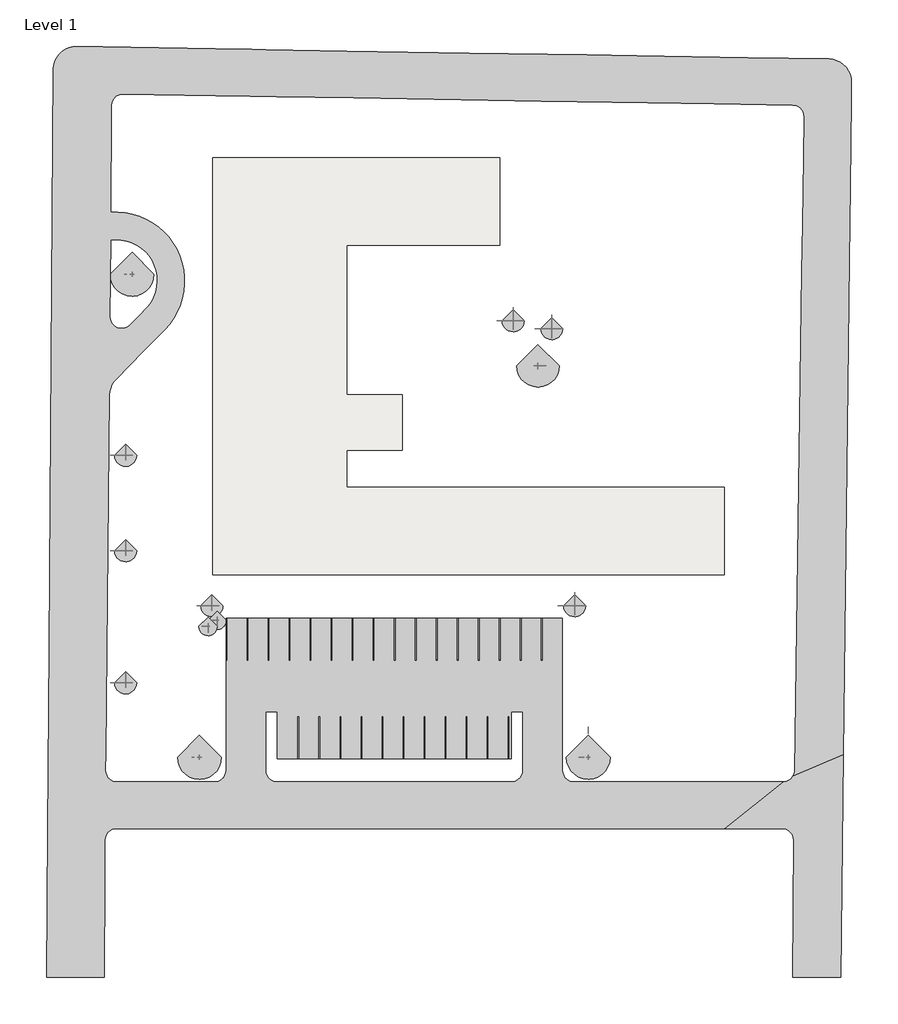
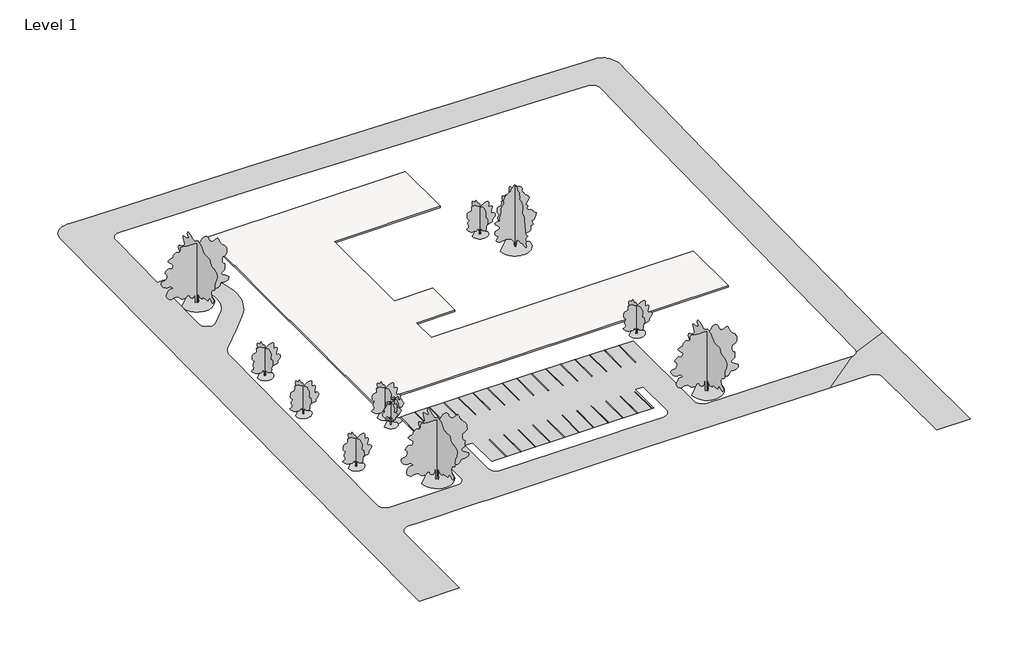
# One storey, incomplete: 28 proxies, 13 geographic elements, 1 slab.
"""IFC4 building model written with IfcOpenShell, lengths in millimetres."""

from ifc_helpers import new_model, si_unit, frame, origin, place, context, project, spatial, polyline, outline, extrude, triangles, transform, mapped, element, save
from components import m_parking_space_5480_x_2740mm_90_deg_a793e569, m_rpc_tree_deciduous_american_beech_6_0_meters_be49fed4, m_rpc_tree_deciduous_japanese_cherry_4_5_meters_7aaeb41d, m_rpc_tree_deciduous_lombardy_poplar_12_2_meters_1b309f58, m_rpc_tree_deciduous_scarlet_oak_12_5_meters_13b38d7d

model = new_model("IFC4")

# Units and contexts
model_context = context("Model", 3, world=origin())
ifc_project = project(units=[si_unit("LENGTHUNIT", "METRE", prefix="MILLI")], contexts=[model_context])

# Site, building, storey
site = spatial("IfcSite", under=ifc_project)
building = spatial("IfcBuilding", under=site)
storey = spatial("IfcBuildingStorey", under=building, Name="Level 1", Elevation=0.0)

# Proxies
placement = place(None, origin())
element("IfcBuildingElementProxy", 1, Name="Building Element Proxy", at=placement, inside=storey, context=model_context, shape_type="Tessellation", body=[
    triangles([(70309.7548828, 43704.7137085, -503.1527547), (59746.7205688, 43879.5355957, -409.5406998), (45204.5570435, 44120.2092773, -278.9620967), (38757.531958, 44226.9097412, -221.9724431), (23364.4389771, 44481.6709351, -156.1477909), (7458.42556, 44744.915332, 0.0), (-3099.0088051, 44919.6442017, 0.0), (-4909.0805878, 44949.6005127, 0.0), (-9691.7927261, 45028.7538208, 0.0), (-24317.5691711, 45270.8134644, 0.0), (-27271.6376953, 45319.7081543, 0.0), (-27739.5370422, 45327.4518677, 0.0), (-28264.1631592, 45290.0215942, 0.0), (-28774.1901672, 45161.5457153, 0.0), (-29253.9399536, 44945.9681763, 0.0), (-29688.6669067, 44649.9211304, 0.0), (-30065.011377, 44282.4970459, 0.0), (-30371.4019775, 43854.9975586, 0.0), (-30598.4230042, 43380.5567505, 0.0), (-30739.095813, 42873.755127, 0.0), (-30774.2820374, 42505.3404053, 0.0), (-30789.0997375, 42350.1824341, 0.0), (-31349.0702087, -32913.8142334, 0.0), (-31410.3827454, -41154.7298218, 0.0), (-31466.9560364, -48758.3494263, 0.0), (-31526.3942688, -56747.4710815, 0.0), (-31669.8878357, -76033.9217651, 0.0), (-24160.2671448, -76033.9217651, 0.0), (-24090.7853394, -62944.5904907, 0.0), (-24065.2287598, -58130.4099243, 0.0), (-24026.1078918, -57797.9371948, 0.0), (-23964.4744446, -57624.1291992, 0.0), (-23914.2263489, -57482.4262207, 0.0), (-23735.1558838, -57199.58302, 0.0), (-23497.8145569, -56963.4997559, 0.0), (-23214.0249023, -56785.9338501, 0.0), (-22897.9232666, -56675.7266235, 0.0), (-22565.2505493, -56638.3707642, 0.0), (-21189.1601257, -56638.3707642, 0.0), (-18714.6158203, -56638.3707642, 0.0), (-10932.9501068, -56638.3707642, 0.0), (-8594.8358459, -56638.3707642, 0.0), (-7828.2291504, -56638.3707642, 0.0), (21010.0826843, -56638.3707642, 0.0), (22698.8121643, -56638.3707642, 0.0), (56711.1151611, -56638.3707642, -334.7282604), (64236.9255615, -56638.3707642, -334.7282604), (64572.5050781, -56676.3916992, -334.0721231), (64891.0763306, -56788.5243896, -332.1369578), (65176.4821655, -56969.0808105, -329.020869), (65414.2630005, -57208.917334, -324.8818048), (65592.3591064, -57495.8672607, -319.9295998), (65701.7431274, -57815.3872925, -314.4152925), (65736.8712158, -58151.2830688, -308.6184443), (65582.9224731, -76033.9217651, 0.0), (71858.6882446, -76033.9217651, 0.0), (72207.6111328, -46972.9328247, -501.5343578), (72914.4470581, 11897.6051788, -595.5837407), (72981.5592407, 17486.9884277, -555.8220689), (73096.2220093, 27037.1194519, -545.4053719), (73231.3532959, 38291.881311, -535.7858282), (73259.8957397, 40669.1083008, -533.0508934), (73220.8237061, 41189.0672607, -532.0520082), (73092.3059692, 41694.4085083, -530.2807137), (72878.2306641, 42169.863208, -527.790495), (72585.0625122, 42601.0694458, -524.6566383), (72221.661438, 42975.0001099, -520.9737236), (71799.0035156, 43280.3582153, -516.8530812), (71329.8554077, 43507.9210693, -512.4191949), (70828.3883423, 43650.810022, -507.805959), (65844.943689, -49064.5493408, -435.8225258), (65789.1005859, -49448.423584, -434.7050795), (65636.6912842, -49805.1366943, -432.6774053), (65397.8965576, -50110.8436157, -429.875069), (65088.6968262, -50345.0897827, -426.4855594), (64729.7652466, -50492.2110352, -422.7355339), (64345.1050049, -50542.3707642, -418.8757768), (37077.7972778, -50542.3707642, -150.5276125), (36744.0176514, -50504.7637573, -147.2983764), (36426.9718872, -50393.8263428, -144.3423523), (36142.5636658, -50215.1163208, -141.8077414), (35905.0502563, -49977.6052368, -139.8216707), (35726.3448853, -49693.1946899, -138.4837074), (35615.4051453, -49376.1535767, -137.8609529), (35577.7981384, -49042.3692993, -137.9846372), (35577.7981384, -29206.3707642, -167.3300298), (18575.1115448, -29206.3707642, 0.0), (14497.9359924, -29206.3707642, 0.0), (-7039.9656372, -29206.3707642, 0.0), (-8262.2014984, -29206.3707642, 0.0), (-8262.2014984, -49042.3692993, 0.0), (-8299.809668, -49376.1535767, 0.0), (-8410.7482452, -49693.1946899, 0.0), (-8589.4541977, -49977.6052368, 0.0), (-8665.8786026, -50054.028479, 0.0), (-8826.9670258, -50215.1163208, 0.0), (-9111.3758286, -50393.8263428, 0.0), (-9428.4198486, -50504.7637573, 0.0), (-9762.2018005, -50542.3707642, 0.0), (-11733.5907715, -50542.3707642, 0.0), (-21961.0269653, -50542.3707642, 0.0), (-22489.1714722, -50542.3707642, 0.0), (-22825.1137573, -50504.2661133, 0.0), (-23143.9896423, -50391.896228, 0.0), (-23429.5977905, -50210.9584351, 0.0), (-23667.4274597, -49970.6568237, 0.0), (-23845.3979919, -49683.1953003, 0.0), (-23954.4657532, -49363.1729736, 0.0), (-23989.0915466, -49026.8539673, 0.0), (-23965.8278503, -46777.8191528, 0.0), (-23482.8736084, -89.4265001, 0.0), (-23435.7322998, 363.1888415, 0.0), (-23321.7694885, 803.7518847, 0.0), (-23143.5268799, 1222.4547432, 0.0), (-22904.9670227, 1609.9761475, 0.0), (-22611.4058716, 1957.6892258, 0.0), (-19099.0970032, 5537.8817413, 0.0), (-16262.7991974, 8428.9988754, 0.0), (-15636.7711304, 9137.9788559, 0.0), (-15088.4732025, 9908.6498383, 0.0), (-14623.9422546, 10732.5286194, 0.0), (-14248.2919281, 11600.5442413, 0.0), (-13965.658017, 12503.1414734, 0.0), (-13779.1507965, 13430.3848755, 0.0), (-13690.8247925, 14372.0646057, 0.0), (-13701.6508759, 15317.8173431, 0.0), (-13811.5116119, 16257.2297699, 0.0), (-14019.1954468, 17179.959494, 0.0), (-14322.4187988, 18075.8513214, 0.0), (-14717.8411743, 18935.0395752, 0.0), (-15201.1093506, 19748.0690186, 0.0), (-15766.9062103, 20505.9855469, 0.0), (-16409.0007385, 21200.4478088, 0.0), (-17120.3235992, 21823.812085, 0.0), (-17893.0473633, 22369.2160034, 0.0), (-18718.662085, 22830.6506287, 0.0), (-19588.0811096, 23203.0418518, 0.0), (-20491.7329285, 23482.2875977, 0.0), (-21419.6693115, 23665.3136353, 0.0), (-21480.6516357, 23670.8039978, 0.0), (-22361.6746033, 23750.1084595, 0.0), (-23307.3796692, 23735.7325928, 0.0), (-23209.9042236, 36837.1561523, 0.0), (-23203.9185425, 37641.6768127, 0.0), (-23163.3768311, 37977.0679688, 0.0), (-23048.8094055, 38294.8811279, 0.0), (-22866.0228882, 38578.9940186, 0.0), (-22624.2911316, 38814.9958923, 0.0), (-22335.8738525, 38990.915387, 0.0), (-22015.4050415, 39097.8274658, 0.0), (-21679.1371948, 39130.3092041, 0.0), (-9625.997905, 38930.8306824, 0.0), (-5084.1908295, 38855.6655029, 0.0), (-1645.9585442, 38798.7619995, 0.0), (8377.2142456, 38632.8791016, 0.0), (32875.1398499, 38227.4364075, -240.4937689), (46729.6360474, 37998.1434265, -299.7389899), (55435.3325684, 37854.0638489, -376.6945579), (65630.1847046, 37685.3392639, -468.2372987), (65962.9318359, 37642.302356, -471.261242), (66277.7870361, 37526.3815247, -474.1950019), (66559.0024292, 37343.376416, -476.8917123), (66792.4998047, 37102.4422852, -479.216534), (66966.6054565, 36815.6318848, -481.0531225), (67072.6082886, 36497.2978271, -482.3095865), (67105.1969971, 36163.3670471, -482.9230665), (67025.2297852, 30755.4808594, -487.4104743), (66899.3025879, 22239.1774292, -496.4906977), (66805.7827148, 15914.661145, -541.4088498), (-1581.9995121, -47494.3707642, 0.0), (18839.3663452, -47494.3707642, 0.0), (21324.2449036, -47494.3707642, 0.0), (28897.5965881, -47494.3707642, -74.5322966), (28897.5965881, -41398.3707642, -83.5507232), (30421.5965881, -41398.3707642, -98.5489992), (30421.5965881, -49042.3692993, -87.2404598), (30383.9895813, -49376.1535767, -86.3765409), (30273.0498413, -49693.1946899, -84.8157168), (30094.3444702, -49977.6052368, -82.6362441), (29856.8310608, -50215.1163208, -79.9474184), (29572.4228394, -50393.8263428, -76.8840607), (29255.3770752, -50504.7637573, -73.5997817), (28921.5974487, -50542.3707642, -70.2592743), (21782.4332153, -50542.3707642, 0.0), (19562.9384583, -50542.3707642, 0.0), (-1605.9993553, -50542.3707642, 0.0), (-1939.7807259, -50504.7637573, 0.0), (-2256.8250366, -50393.8263428, 0.0), (-2541.2341301, -50215.1163208, 0.0), (-2778.7466675, -49977.6052368, 0.0), (-2957.4526199, -49693.1946899, 0.0), (-3068.3911972, -49376.1535767, 0.0), (-3105.9993668, -49042.3692993, 0.0), (-3105.9993668, -41398.3707642, 0.0), (-1581.9995121, -41398.3707642, 0.0), (-23329.5411072, 20062.4428528, 0.0), (-22621.2355042, 20122.8182373, 0.0), (-21911.2137268, 20088.0784973, 0.0), (-21212.1866272, 19958.8398743, 0.0), (-20983.2726929, 19883.8049194, 0.0), (-20536.6766968, 19737.4208313, 0.0), (-19896.7808716, 19427.7839172, 0.0), (-19303.9589172, 19035.4776306, 0.0), (-18768.829953, 18567.527124, 0.0), (-18300.9771149, 18032.3132813, 0.0), (-17908.7801239, 17439.420401, 0.0), (-17599.2606445, 16799.4687653, 0.0), (-17377.9648499, 16123.9181396, 0.0), (-17248.854126, 15424.8677856, 0.0), (-17214.2422852, 14714.8378693, 0.0), (-17274.7478943, 14006.5438934, 0.0), (-17429.2872986, 13312.6722931, 0.0), (-17675.0943878, 12645.649054, 0.0), (-18007.7659424, 12017.4211212, 0.0), (-18421.3430237, 11439.2389709, 0.0), (-19702.636908, 10133.1791565, 0.0), (-20791.7983337, 9022.9684341, 0.0), (-21073.2044128, 8797.119429, 0.0), (-21399.8193604, 8643.7590225, 0.0), (-21753.3349915, 8571.483783, 0.0), (-22113.9339111, 8584.3452072, 0.0), (-22461.4010742, 8681.6229904, 0.0), (-22776.2609253, 8857.8639771, 0.0), (-23040.8610535, 9103.1879562, 0.0), (-23240.3698059, 9403.8428604, 0.0), (-23363.6018188, 9742.9750671, 0.0), (-23403.6505371, 10101.5741089, 0.0)], [[27, 28, 29], [27, 29, 26], [26, 30, 31], [30, 26, 29], [31, 32, 26], [26, 32, 33], [34, 35, 106], [34, 106, 26], [106, 35, 105], [36, 104, 105], [104, 36, 37], [35, 36, 105], [34, 26, 33], [26, 106, 25], [108, 109, 25], [107, 108, 25], [24, 25, 110], [23, 110, 111], [110, 23, 24], [25, 109, 110], [107, 25, 106], [112, 113, 226], [111, 112, 227], [227, 112, 226], [225, 114, 115], [225, 226, 113], [114, 225, 113], [23, 111, 22], [22, 111, 227], [103, 37, 38], [102, 38, 101], [103, 38, 102], [115, 116, 224], [116, 117, 221], [222, 116, 221], [225, 115, 224], [101, 39, 40], [39, 101, 38], [219, 220, 117], [219, 117, 218], [221, 117, 220], [217, 117, 118], [222, 223, 116], [216, 118, 215], [118, 216, 217], [117, 217, 218], [223, 224, 116], [215, 120, 214], [214, 120, 121], [214, 121, 213], [213, 122, 212], [121, 122, 213], [212, 122, 123], [120, 215, 119], [118, 119, 215], [103, 104, 37], [142, 143, 22], [196, 142, 22], [144, 145, 22], [146, 147, 22], [145, 146, 22], [142, 196, 197], [143, 144, 22], [141, 197, 198], [140, 198, 139], [141, 198, 140], [149, 150, 10], [148, 149, 10], [141, 142, 197], [147, 148, 10], [21, 19, 20], [15, 16, 21], [19, 21, 18], [17, 18, 21], [16, 17, 21], [21, 22, 12], [15, 21, 14], [22, 147, 11], [22, 11, 12], [21, 13, 14], [21, 12, 13], [10, 11, 147], [151, 9, 10], [151, 10, 150], [196, 22, 227], [212, 123, 211], [132, 204, 205], [130, 206, 207], [131, 205, 206], [208, 128, 207], [126, 210, 125], [211, 125, 210], [124, 125, 211], [210, 126, 209], [208, 209, 127], [207, 128, 129], [128, 208, 127], [209, 126, 127], [123, 124, 211], [207, 129, 130], [137, 201, 136], [200, 201, 137], [198, 138, 139], [138, 198, 199], [137, 138, 199], [199, 200, 137], [201, 202, 136], [204, 133, 203], [204, 132, 133], [132, 205, 131], [206, 130, 131], [202, 135, 136], [135, 203, 134], [203, 133, 134], [135, 202, 203], [40, 100, 101], [99, 41, 42], [97, 98, 42], [99, 100, 41], [188, 43, 187], [98, 99, 42], [97, 42, 43], [43, 186, 187], [41, 100, 40], [185, 186, 44], [44, 186, 43], [184, 44, 45], [185, 44, 184], [182, 183, 45], [45, 183, 184], [182, 80, 181], [97, 43, 96], [96, 43, 95], [93, 94, 190], [91, 92, 192], [93, 191, 92], [95, 190, 94], [43, 189, 190], [43, 188, 189], [192, 193, 91], [190, 191, 93], [192, 92, 191], [190, 95, 43], [91, 193, 194], [182, 45, 79], [91, 194, 90], [77, 48, 76], [47, 48, 77], [78, 45, 46], [46, 77, 78], [77, 46, 47], [79, 45, 78], [76, 48, 49], [55, 56, 54], [53, 57, 52], [75, 49, 50], [57, 73, 51], [74, 50, 51], [52, 57, 51], [182, 79, 80], [53, 54, 57], [180, 82, 179], [82, 180, 81], [179, 82, 83], [177, 178, 84], [83, 84, 178], [178, 179, 83], [85, 177, 84], [81, 180, 181], [75, 76, 49], [73, 74, 51], [57, 71, 72], [72, 73, 57], [75, 50, 74], [80, 81, 181], [54, 56, 57], [195, 170, 171], [90, 194, 89], [195, 88, 89], [88, 195, 171], [194, 195, 89], [88, 171, 87], [85, 176, 177], [175, 176, 85], [174, 87, 172], [172, 173, 174], [175, 86, 174], [86, 175, 85], [172, 87, 171], [87, 174, 86], [153, 154, 7], [9, 152, 8], [9, 151, 152], [8, 152, 153], [153, 7, 8], [154, 6, 7], [155, 156, 5], [5, 6, 155], [157, 3, 4], [5, 156, 4], [4, 156, 157], [155, 6, 154], [168, 169, 59], [160, 161, 1], [162, 163, 62], [161, 162, 1], [163, 164, 61], [60, 168, 59], [59, 169, 58], [165, 166, 61], [167, 61, 166], [168, 60, 167], [164, 165, 61], [61, 167, 60], [3, 158, 2], [2, 158, 159], [2, 159, 1], [64, 69, 70], [70, 1, 63], [159, 160, 1], [158, 3, 157], [64, 70, 63], [62, 63, 1], [64, 65, 69], [67, 68, 66], [65, 66, 68], [69, 65, 68], [162, 62, 1], [163, 61, 62], [58, 169, 71], [57, 58, 71]], closed=False),
])
m_parking_space_5480_x_2740mm_90_deg_shape = m_parking_space_5480_x_2740mm_90_deg_a793e569(model_context)
element("IfcBuildingElementProxy", 2, Name="M_Parking Space : 5480 x 2740mm - 90 deg", ObjectType="M_Parking Space : 5480 x 2740mm - 90 deg", at=placement, inside=storey, context=model_context, shape_type="MappedRepresentation", body=[
    mapped(m_parking_space_5480_x_2740mm_90_deg_shape, transform((-8211.3704002, -29206.3707642, 0.7803686), x_axis=(1.0, 0.0, 0.0), y_axis=(0.0, 1.0, 0.0), z_axis=(0.0, 0.0, 1.0))),
])
element("IfcBuildingElementProxy", 3, Name="M_Parking Space : 5480 x 2740mm - 90 deg", ObjectType="M_Parking Space : 5480 x 2740mm - 90 deg", at=placement, inside=storey, context=model_context, shape_type="MappedRepresentation", body=[
    mapped(m_parking_space_5480_x_2740mm_90_deg_shape, transform((-5471.4012928, -29206.3707642, 0.7803686), x_axis=(1.0, 0.0, 0.0), y_axis=(0.0, 1.0, 0.0), z_axis=(0.0, 0.0, 1.0))),
])
element("IfcBuildingElementProxy", 4, Name="M_Parking Space : 5480 x 2740mm - 90 deg", ObjectType="M_Parking Space : 5480 x 2740mm - 90 deg", at=placement, inside=storey, context=model_context, shape_type="MappedRepresentation", body=[
    mapped(m_parking_space_5480_x_2740mm_90_deg_shape, transform((-2731.4321855, -29206.3707642, 0.7803686), x_axis=(1.0, 0.0, 0.0), y_axis=(0.0, 1.0, 0.0), z_axis=(0.0, 0.0, 1.0))),
])
element("IfcBuildingElementProxy", 5, Name="M_Parking Space : 5480 x 2740mm - 90 deg", ObjectType="M_Parking Space : 5480 x 2740mm - 90 deg", at=placement, inside=storey, context=model_context, shape_type="MappedRepresentation", body=[
    mapped(m_parking_space_5480_x_2740mm_90_deg_shape, transform((8.5369219, -29206.3707642, 0.7803686), x_axis=(1.0, 0.0, 0.0), y_axis=(0.0, 1.0, 0.0), z_axis=(0.0, 0.0, 1.0))),
])
element("IfcBuildingElementProxy", 6, Name="M_Parking Space : 5480 x 2740mm - 90 deg", ObjectType="M_Parking Space : 5480 x 2740mm - 90 deg", at=placement, inside=storey, context=model_context, shape_type="MappedRepresentation", body=[
    mapped(m_parking_space_5480_x_2740mm_90_deg_shape, transform((2748.5060292, -29206.3707642, 0.7803686), x_axis=(1.0, 0.0, 0.0), y_axis=(0.0, 1.0, 0.0), z_axis=(0.0, 0.0, 1.0))),
])
element("IfcBuildingElementProxy", 7, Name="M_Parking Space : 5480 x 2740mm - 90 deg", ObjectType="M_Parking Space : 5480 x 2740mm - 90 deg", at=placement, inside=storey, context=model_context, shape_type="MappedRepresentation", body=[
    mapped(m_parking_space_5480_x_2740mm_90_deg_shape, transform((5488.4751366, -29206.3707642, 0.7803686), x_axis=(1.0, 0.0, 0.0), y_axis=(0.0, 1.0, 0.0), z_axis=(0.0, 0.0, 1.0))),
])
element("IfcBuildingElementProxy", 8, Name="M_Parking Space : 5480 x 2740mm - 90 deg", ObjectType="M_Parking Space : 5480 x 2740mm - 90 deg", at=placement, inside=storey, context=model_context, shape_type="MappedRepresentation", body=[
    mapped(m_parking_space_5480_x_2740mm_90_deg_shape, transform((8228.4442439, -29206.3707642, 0.7803686), x_axis=(1.0, 0.0, 0.0), y_axis=(0.0, 1.0, 0.0), z_axis=(0.0, 0.0, 1.0))),
])
element("IfcBuildingElementProxy", 9, Name="M_Parking Space : 5480 x 2740mm - 90 deg", ObjectType="M_Parking Space : 5480 x 2740mm - 90 deg", at=placement, inside=storey, context=model_context, shape_type="MappedRepresentation", body=[
    mapped(m_parking_space_5480_x_2740mm_90_deg_shape, transform((10968.4133512, -29206.3707642, 0.7803686), x_axis=(1.0, 0.0, 0.0), y_axis=(0.0, 1.0, 0.0), z_axis=(0.0, 0.0, 1.0))),
])
element("IfcBuildingElementProxy", 10, Name="M_Parking Space : 5480 x 2740mm - 90 deg", ObjectType="M_Parking Space : 5480 x 2740mm - 90 deg", at=placement, inside=storey, context=model_context, shape_type="MappedRepresentation", body=[
    mapped(m_parking_space_5480_x_2740mm_90_deg_shape, transform((13708.3824586, -29206.3707642, 0.7803686), x_axis=(1.0, 0.0, 0.0), y_axis=(0.0, 1.0, 0.0), z_axis=(0.0, 0.0, 1.0))),
])
element("IfcBuildingElementProxy", 11, Name="M_Parking Space : 5480 x 2740mm - 90 deg", ObjectType="M_Parking Space : 5480 x 2740mm - 90 deg", at=placement, inside=storey, context=model_context, shape_type="MappedRepresentation", body=[
    mapped(m_parking_space_5480_x_2740mm_90_deg_shape, transform((16448.3515659, -29206.3707642, 0.7254434), x_axis=(1.0, 0.0, 0.0), y_axis=(0.0, 1.0, 0.0), z_axis=(0.0, 0.0, 1.0))),
])
element("IfcBuildingElementProxy", 12, Name="M_Parking Space : 5480 x 2740mm - 90 deg", ObjectType="M_Parking Space : 5480 x 2740mm - 90 deg", at=placement, inside=storey, context=model_context, shape_type="MappedRepresentation", body=[
    mapped(m_parking_space_5480_x_2740mm_90_deg_shape, transform((19188.3206733, -29206.3707642, -5.2310848), x_axis=(0.9999560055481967, 0.0, -0.009380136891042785), y_axis=(-1.1675017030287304e-05, 0.9999992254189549, -0.0012445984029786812), z_axis=(0.009380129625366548, 0.0012446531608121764, 0.9999552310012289))),
])
element("IfcBuildingElementProxy", 13, Name="M_Parking Space : 5480 x 2740mm - 90 deg", ObjectType="M_Parking Space : 5480 x 2740mm - 90 deg", at=placement, inside=storey, context=model_context, shape_type="MappedRepresentation", body=[
    mapped(m_parking_space_5480_x_2740mm_90_deg_shape, transform((21928.2897806, -29206.3707642, -32.2196013), x_axis=(0.9999515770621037, 0.0, -0.0098409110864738), y_axis=(-1.4557933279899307e-05, 0.9999989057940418, -0.0014792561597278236), z_axis=(0.009840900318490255, 0.0014793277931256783, 0.99995048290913))),
])
element("IfcBuildingElementProxy", 14, Name="M_Parking Space : 5480 x 2740mm - 90 deg", ObjectType="M_Parking Space : 5480 x 2740mm - 90 deg", at=placement, inside=storey, context=model_context, shape_type="MappedRepresentation", body=[
    mapped(m_parking_space_5480_x_2740mm_90_deg_shape, transform((24668.258888, -29206.3707642, -59.1846994), x_axis=(0.9999515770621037, 0.0, -0.009840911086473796), y_axis=(-1.4557933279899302e-05, 0.9999989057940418, -0.0014792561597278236), z_axis=(0.009840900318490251, 0.0014793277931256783, 0.99995048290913))),
])
element("IfcBuildingElementProxy", 15, Name="M_Parking Space : 5480 x 2740mm - 90 deg", ObjectType="M_Parking Space : 5480 x 2740mm - 90 deg", at=placement, inside=storey, context=model_context, shape_type="MappedRepresentation", body=[
    mapped(m_parking_space_5480_x_2740mm_90_deg_shape, transform((27408.2279953, -29206.3707642, -86.1497975), x_axis=(0.9999515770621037, 0.0, -0.0098409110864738), y_axis=(-1.4557933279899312e-05, 0.9999989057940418, -0.001479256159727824), z_axis=(0.009840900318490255, 0.0014793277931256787, 0.99995048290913))),
])
element("IfcBuildingElementProxy", 16, Name="M_Parking Space : 5480 x 2740mm - 90 deg", ObjectType="M_Parking Space : 5480 x 2740mm - 90 deg", at=placement, inside=storey, context=model_context, shape_type="MappedRepresentation", body=[
    mapped(m_parking_space_5480_x_2740mm_90_deg_shape, transform((30148.1971027, -29206.3707642, -113.1148956), x_axis=(0.9999515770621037, 0.0, -0.009840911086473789), y_axis=(-1.4557933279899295e-05, 0.9999989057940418, -0.001479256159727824), z_axis=(0.009840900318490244, 0.0014793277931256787, 0.99995048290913))),
])
element("IfcBuildingElementProxy", 17, Name="M_Parking Space : 5480 x 2740mm - 90 deg", ObjectType="M_Parking Space : 5480 x 2740mm - 90 deg", at=placement, inside=storey, context=model_context, shape_type="MappedRepresentation", body=[
    mapped(m_parking_space_5480_x_2740mm_90_deg_shape, transform((32888.16621, -29206.3707642, -140.0799937), x_axis=(0.9999515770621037, 0.0, -0.009840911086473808), y_axis=(-1.4557933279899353e-05, 0.9999989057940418, -0.0014792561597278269), z_axis=(0.009840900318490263, 0.0014793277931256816, 0.99995048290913))),
])
element("IfcBuildingElementProxy", 18, Name="M_Parking Space : 5480 x 2740mm - 90 deg", ObjectType="M_Parking Space : 5480 x 2740mm - 90 deg", at=placement, inside=storey, context=model_context, shape_type="MappedRepresentation", body=[
    mapped(m_parking_space_5480_x_2740mm_90_deg_shape, transform((28558.0005584, -47494.3704098, -70.4098691), x_axis=(-0.9999515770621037, 0.0, 0.009840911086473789), y_axis=(1.4557933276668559e-05, -0.9999989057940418, 0.0014792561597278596), z_axis=(0.00984090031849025, 0.0014793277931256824, 0.99995048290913))),
])
element("IfcBuildingElementProxy", 19, Name="M_Parking Space : 5480 x 2740mm - 90 deg", ObjectType="M_Parking Space : 5480 x 2740mm - 90 deg", at=placement, inside=storey, context=model_context, shape_type="MappedRepresentation", body=[
    mapped(m_parking_space_5480_x_2740mm_90_deg_shape, transform((25818.031746, -47494.3704098, -43.444774), x_axis=(-0.9999515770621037, 0.0, 0.009840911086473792), y_axis=(1.455793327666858e-05, -0.9999989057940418, 0.0014792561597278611), z_axis=(0.009840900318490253, 0.001479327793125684, 0.99995048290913))),
])
element("IfcBuildingElementProxy", 20, Name="M_Parking Space : 5480 x 2740mm - 90 deg", ObjectType="M_Parking Space : 5480 x 2740mm - 90 deg", at=placement, inside=storey, context=model_context, shape_type="MappedRepresentation", body=[
    mapped(m_parking_space_5480_x_2740mm_90_deg_shape, transform((23078.0629336, -47494.3704098, -16.4796788), x_axis=(-0.9999515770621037, 0.0, 0.009840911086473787), y_axis=(1.4557933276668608e-05, -0.9999989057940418, 0.0014792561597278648), z_axis=(0.009840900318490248, 0.0014793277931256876, 0.99995048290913))),
])
element("IfcBuildingElementProxy", 21, Name="M_Parking Space : 5480 x 2740mm - 90 deg", ObjectType="M_Parking Space : 5480 x 2740mm - 90 deg", at=placement, inside=storey, context=model_context, shape_type="MappedRepresentation", body=[
    mapped(m_parking_space_5480_x_2740mm_90_deg_shape, transform((20338.0941212, -47494.3704098, 0.5399922), x_axis=(-0.9999888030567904, 0.0, 0.004732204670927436), y_axis=(3.5003760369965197e-06, -0.9999997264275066, 0.0007396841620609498), z_axis=(0.004732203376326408, 0.0007396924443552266, 0.9999885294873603))),
])
element("IfcBuildingElementProxy", 22, Name="M_Parking Space : 5480 x 2740mm - 90 deg", ObjectType="M_Parking Space : 5480 x 2740mm - 90 deg", at=placement, inside=storey, context=model_context, shape_type="MappedRepresentation", body=[
    mapped(m_parking_space_5480_x_2740mm_90_deg_shape, transform((17598.1253087, -47494.3704098, 0.7803686), x_axis=(-1.0, 0.0, 0.0), y_axis=(0.0, -1.0, 0.0), z_axis=(0.0, 0.0, 1.0))),
])
element("IfcBuildingElementProxy", 23, Name="M_Parking Space : 5480 x 2740mm - 90 deg", ObjectType="M_Parking Space : 5480 x 2740mm - 90 deg", at=placement, inside=storey, context=model_context, shape_type="MappedRepresentation", body=[
    mapped(m_parking_space_5480_x_2740mm_90_deg_shape, transform((14858.1564963, -47494.3704098, 0.7803686), x_axis=(-1.0, 0.0, 0.0), y_axis=(0.0, -1.0, 0.0), z_axis=(0.0, 0.0, 1.0))),
])
element("IfcBuildingElementProxy", 24, Name="M_Parking Space : 5480 x 2740mm - 90 deg", ObjectType="M_Parking Space : 5480 x 2740mm - 90 deg", at=placement, inside=storey, context=model_context, shape_type="MappedRepresentation", body=[
    mapped(m_parking_space_5480_x_2740mm_90_deg_shape, transform((12118.1876839, -47494.3704098, 0.7803686), x_axis=(-1.0, 0.0, 0.0), y_axis=(0.0, -1.0, 0.0), z_axis=(0.0, 0.0, 1.0))),
])
element("IfcBuildingElementProxy", 25, Name="M_Parking Space : 5480 x 2740mm - 90 deg", ObjectType="M_Parking Space : 5480 x 2740mm - 90 deg", at=placement, inside=storey, context=model_context, shape_type="MappedRepresentation", body=[
    mapped(m_parking_space_5480_x_2740mm_90_deg_shape, transform((9378.2188715, -47494.3704098, 0.7803686), x_axis=(-1.0, 0.0, 0.0), y_axis=(0.0, -1.0, 0.0), z_axis=(0.0, 0.0, 1.0))),
])
element("IfcBuildingElementProxy", 26, Name="M_Parking Space : 5480 x 2740mm - 90 deg", ObjectType="M_Parking Space : 5480 x 2740mm - 90 deg", at=placement, inside=storey, context=model_context, shape_type="MappedRepresentation", body=[
    mapped(m_parking_space_5480_x_2740mm_90_deg_shape, transform((6638.2500591, -47494.3704098, 0.7803686), x_axis=(-1.0, 0.0, 0.0), y_axis=(0.0, -1.0, 0.0), z_axis=(0.0, 0.0, 1.0))),
])
element("IfcBuildingElementProxy", 27, Name="M_Parking Space : 5480 x 2740mm - 90 deg", ObjectType="M_Parking Space : 5480 x 2740mm - 90 deg", at=placement, inside=storey, context=model_context, shape_type="MappedRepresentation", body=[
    mapped(m_parking_space_5480_x_2740mm_90_deg_shape, transform((3898.2812467, -47494.3704098, 0.7803686), x_axis=(-1.0, 0.0, 0.0), y_axis=(0.0, -1.0, 0.0), z_axis=(0.0, 0.0, 1.0))),
])
element("IfcBuildingElementProxy", 28, Name="M_Parking Space : 5480 x 2740mm - 90 deg", ObjectType="M_Parking Space : 5480 x 2740mm - 90 deg", at=placement, inside=storey, context=model_context, shape_type="MappedRepresentation", body=[
    mapped(m_parking_space_5480_x_2740mm_90_deg_shape, transform((1158.3124343, -47494.3704098, 0.7803686), x_axis=(-1.0, 0.0, 0.0), y_axis=(0.0, -1.0, 0.0), z_axis=(0.0, 0.0, 1.0))),
])

# Geographic elements
m_rpc_tree_deciduous_american_beech_6_0_meters_shape = m_rpc_tree_deciduous_american_beech_6_0_meters_be49fed4(model_context)
element("IfcGeographicElement", 29, ObjectType="M_RPC Tree - Deciduous : American Beech - 6.0 Meters", at=placement, inside=storey, context=model_context, shape_type="MappedRepresentation", body=[
    mapped(m_rpc_tree_deciduous_american_beech_6_0_meters_shape, transform((34188.8932364, 8562.754829, -209.5369666), x_axis=(1.0, 0.0, 0.0), y_axis=(0.0, 1.0, 0.0), z_axis=(0.0, 0.0, 1.0))),
])
element("IfcGeographicElement", 30, ObjectType="M_RPC Tree - Deciduous : American Beech - 6.0 Meters", at=placement, inside=storey, context=model_context, shape_type="MappedRepresentation", body=[
    mapped(m_rpc_tree_deciduous_american_beech_6_0_meters_shape, transform((-21369.8074033, -37622.5453961, 0.0), x_axis=(1.0, 0.0, 0.0), y_axis=(0.0, 1.0, 0.0), z_axis=(0.0, 0.0, 1.0))),
])
element("IfcGeographicElement", 31, ObjectType="M_RPC Tree - Deciduous : American Beech - 6.0 Meters", at=placement, inside=storey, context=model_context, shape_type="MappedRepresentation", body=[
    mapped(m_rpc_tree_deciduous_american_beech_6_0_meters_shape, transform((-21369.8074033, -20409.5737255, 0.0), x_axis=(1.0, 0.0, 0.0), y_axis=(0.0, 1.0, 0.0), z_axis=(0.0, 0.0, 1.0))),
])
element("IfcGeographicElement", 32, ObjectType="M_RPC Tree - Deciduous : American Beech - 6.0 Meters", at=placement, inside=storey, context=model_context, shape_type="MappedRepresentation", body=[
    mapped(m_rpc_tree_deciduous_american_beech_6_0_meters_shape, transform((-21369.8074033, -7968.5149933, 0.0), x_axis=(1.0, 0.0, 0.0), y_axis=(0.0, 1.0, 0.0), z_axis=(0.0, 0.0, 1.0))),
])
element("IfcGeographicElement", 33, ObjectType="M_RPC Tree - Deciduous : American Beech - 6.0 Meters", at=placement, inside=storey, context=model_context, shape_type="MappedRepresentation", body=[
    mapped(m_rpc_tree_deciduous_american_beech_6_0_meters_shape, transform((-10121.7269057, -27567.443133, 0.0), x_axis=(1.0, 0.0, 0.0), y_axis=(0.0, 1.0, 0.0), z_axis=(0.0, 0.0, 1.0))),
])
element("IfcGeographicElement", 34, ObjectType="M_RPC Tree - Deciduous : American Beech - 6.0 Meters", at=placement, inside=storey, context=model_context, shape_type="MappedRepresentation", body=[
    mapped(m_rpc_tree_deciduous_american_beech_6_0_meters_shape, transform((37171.3388229, -27567.443133, -185.4373169), x_axis=(1.0, 0.0, 0.0), y_axis=(0.0, 1.0, 0.0), z_axis=(0.0, 0.0, 1.0))),
])
element("IfcGeographicElement", 35, ObjectType="M_RPC Tree - Deciduous : American Beech - 6.0 Meters", at=placement, inside=storey, context=model_context, shape_type="MappedRepresentation", body=[
    mapped(m_rpc_tree_deciduous_american_beech_6_0_meters_shape, transform((29161.3421049, 9585.3076015, -161.5716527), x_axis=(1.0, 0.0, 0.0), y_axis=(0.0, 1.0, 0.0), z_axis=(0.0, 0.0, 1.0))),
])
m_rpc_tree_deciduous_japanese_cherry_4_5_meters_shape = m_rpc_tree_deciduous_japanese_cherry_4_5_meters_7aaeb41d(model_context)
element("IfcGeographicElement", 36, ObjectType="M_RPC Tree - Deciduous : Japanese Cherry - 4.5 Meters", at=placement, inside=storey, context=model_context, shape_type="MappedRepresentation", body=[
    mapped(m_rpc_tree_deciduous_japanese_cherry_4_5_meters_shape, transform((-10610.2166919, -30274.1375785, 0.0), x_axis=(1.0, 0.0, 0.0), y_axis=(0.0, 1.0, 0.0), z_axis=(0.0, 0.0, 1.0))),
])
element("IfcGeographicElement", 37, ObjectType="M_RPC Tree - Deciduous : Japanese Cherry - 4.5 Meters", at=placement, inside=storey, context=model_context, shape_type="MappedRepresentation", body=[
    mapped(m_rpc_tree_deciduous_japanese_cherry_4_5_meters_shape, transform((-9420.9461982, -29474.7859552, 0.0), x_axis=(1.0, 0.0, 0.0), y_axis=(0.0, 1.0, 0.0), z_axis=(0.0, 0.0, 1.0))),
])
m_rpc_tree_deciduous_lombardy_poplar_12_2_meters_shape = m_rpc_tree_deciduous_lombardy_poplar_12_2_meters_1b309f58(model_context)
element("IfcGeographicElement", 38, ObjectType="M_RPC Tree - Deciduous : Lombardy Poplar - 12.2 Meters", at=placement, inside=storey, context=model_context, shape_type="MappedRepresentation", body=[
    mapped(m_rpc_tree_deciduous_lombardy_poplar_12_2_meters_shape, transform((32399.4258845, 3705.6291595, -184.7404879), x_axis=(1.0, 0.0, 0.0), y_axis=(0.0, 1.0, 0.0), z_axis=(0.0, 0.0, 1.0))),
])
m_rpc_tree_deciduous_scarlet_oak_12_5_meters_shape = m_rpc_tree_deciduous_scarlet_oak_12_5_meters_13b38d7d(model_context)
element("IfcGeographicElement", 39, ObjectType="M_RPC Tree - Deciduous : Scarlet Oak - 12.5 Meters", at=placement, inside=storey, context=model_context, shape_type="MappedRepresentation", body=[
    mapped(m_rpc_tree_deciduous_scarlet_oak_12_5_meters_shape, transform((38960.8061748, -47336.7967349, -173.8013564), x_axis=(1.0, 0.0, 0.0), y_axis=(0.0, 1.0, 0.0), z_axis=(0.0, 0.0, 1.0))),
])
element("IfcGeographicElement", 40, ObjectType="M_RPC Tree - Deciduous : Scarlet Oak - 12.5 Meters", at=placement, inside=storey, context=model_context, shape_type="MappedRepresentation", body=[
    mapped(m_rpc_tree_deciduous_scarlet_oak_12_5_meters_shape, transform((-11740.7687955, -47336.7967349, 0.0), x_axis=(1.0, 0.0, 0.0), y_axis=(0.0, 1.0, 0.0), z_axis=(0.0, 0.0, 1.0))),
])
element("IfcGeographicElement", 41, ObjectType="M_RPC Tree - Deciduous : Scarlet Oak - 12.5 Meters", at=placement, inside=storey, context=model_context, shape_type="MappedRepresentation", body=[
    mapped(m_rpc_tree_deciduous_scarlet_oak_12_5_meters_shape, transform((-20517.6800928, 15635.4115055, 0.0), x_axis=(1.0, 0.0, 0.0), y_axis=(0.0, 1.0, 0.0), z_axis=(0.0, 0.0, 1.0))),
])

# Slab
element("IfcSlab", 42, ObjectType="Pad 1", at=placement, inside=storey, context=model_context, shape_type="SweptSolid", body=[
    extrude(outline(polyline([(27411.8999097, 30818.5799804), (27411.8999097, 19414.8392059), (7447.5010724, 19414.8392059), (7447.5010724, -89.4607941), (14709.0902051, -89.4607941), (14709.0902051, -7283.8611817), (7447.5010724, -7283.8611817), (7447.5010724, -12132.3615692), (56699.1173382, -12132.3615692), (56699.1173382, -23510.7006057), (-10026.8386635, -23510.7006057), (-10026.8386635, 30818.5799804), (27411.8999097, 30818.5799804)])), frame((0.0, 0.0, -304.8), z_axis=(0.0, 0.0, 1.0), x_axis=(1.0, 0.0, 0.0)), (0.0, 0.0, 1.0), 304.8),
])

save(model, "model.ifc")
